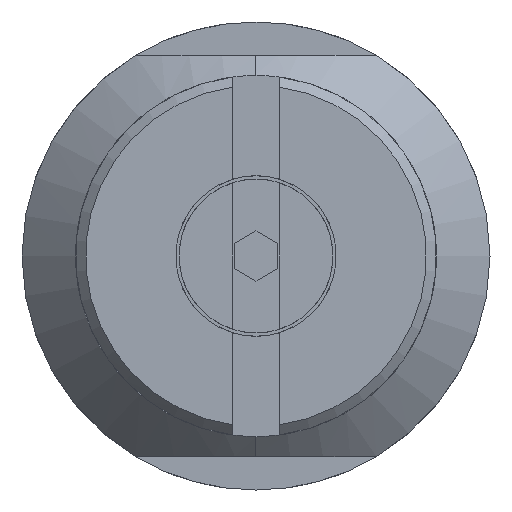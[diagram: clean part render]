
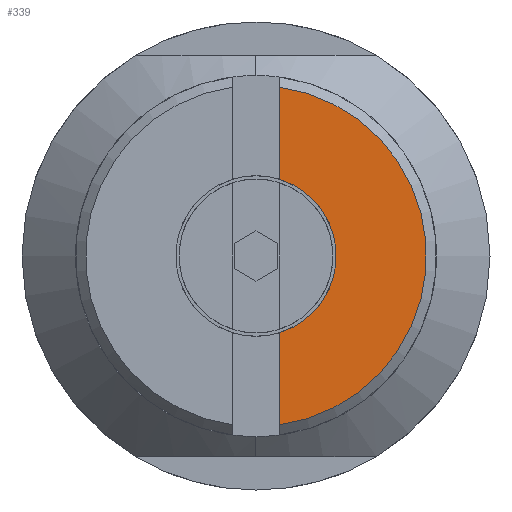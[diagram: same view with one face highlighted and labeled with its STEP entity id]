
A CAD part, left-side view. The second image highlights one B-rep face of the part: STEP entity #339.
In plain terms, the highlighted planar face has unit normal (-1, 0, 0).
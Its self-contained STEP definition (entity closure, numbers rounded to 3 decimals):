
#76 = AXIS2_PLACEMENT_3D ( 'NONE', #1511, #1400, #1390 ) ;
#117 = LINE ( 'NONE', #1098, #1087 ) ;
#201 = ORIENTED_EDGE ( 'NONE', *, *, #1521, .T. ) ;
#275 = VERTEX_POINT ( 'NONE', #1401 ) ;
#339 = ADVANCED_FACE ( 'NONE', ( #1090 ), #417, .T. ) ;
#417 = PLANE ( 'NONE',  #441 ) ;
#441 = AXIS2_PLACEMENT_3D ( 'NONE', #543, #1152, #1063 ) ;
#496 = VECTOR ( 'NONE', #918, 1000. ) ;
#543 = CARTESIAN_POINT ( 'NONE',  ( -5.1, 0., 0. ) ) ;
#640 = CARTESIAN_POINT ( 'NONE',  ( -5.1, -0.7, -2.296 ) ) ;
#664 = VERTEX_POINT ( 'NONE', #1455 ) ;
#693 = CARTESIAN_POINT ( 'NONE',  ( -5.1, -0.7, 0. ) ) ;
#808 = ORIENTED_EDGE ( 'NONE', *, *, #1190, .F. ) ;
#823 = LINE ( 'NONE', #693, #496 ) ;
#842 = CIRCLE ( 'NONE', #1233, 5.1 ) ;
#896 = ORIENTED_EDGE ( 'NONE', *, *, #1162, .F. ) ;
#918 = DIRECTION ( 'NONE',  ( 0., 0., 1. ) ) ;
#919 = VERTEX_POINT ( 'NONE', #640 ) ;
#961 = EDGE_CURVE ( 'NONE', #664, #919, #117, .T. ) ;
#1044 = EDGE_LOOP ( 'NONE', ( #896, #1159, #201, #808 ) ) ;
#1063 = DIRECTION ( 'NONE',  ( 0., 0., 1. ) ) ;
#1087 = VECTOR ( 'NONE', #1140, 1000. ) ;
#1090 = FACE_OUTER_BOUND ( 'NONE', #1044, .T. ) ;
#1098 = CARTESIAN_POINT ( 'NONE',  ( -5.1, -0.7, 0. ) ) ;
#1140 = DIRECTION ( 'NONE',  ( 0., 0., 1. ) ) ;
#1152 = DIRECTION ( 'NONE',  ( -1., 0., 0. ) ) ;
#1159 = ORIENTED_EDGE ( 'NONE', *, *, #961, .F. ) ;
#1162 = EDGE_CURVE ( 'NONE', #919, #275, #1543, .T. ) ;
#1190 = EDGE_CURVE ( 'NONE', #275, #1476, #823, .T. ) ;
#1233 = AXIS2_PLACEMENT_3D ( 'NONE', #1341, #1322, #1327 ) ;
#1322 = DIRECTION ( 'NONE',  ( -1., 0., 0. ) ) ;
#1327 = DIRECTION ( 'NONE',  ( 0., 0., 1. ) ) ;
#1341 = CARTESIAN_POINT ( 'NONE',  ( -5.1, 0., 0. ) ) ;
#1356 = CARTESIAN_POINT ( 'NONE',  ( -5.1, -0.7, 5.052 ) ) ;
#1390 = DIRECTION ( 'NONE',  ( 0., 0., 1. ) ) ;
#1400 = DIRECTION ( 'NONE',  ( -1., 0., 0. ) ) ;
#1401 = CARTESIAN_POINT ( 'NONE',  ( -5.1, -0.7, 2.296 ) ) ;
#1455 = CARTESIAN_POINT ( 'NONE',  ( -5.1, -0.7, -5.052 ) ) ;
#1476 = VERTEX_POINT ( 'NONE', #1356 ) ;
#1511 = CARTESIAN_POINT ( 'NONE',  ( -5.1, 0., 0. ) ) ;
#1521 = EDGE_CURVE ( 'NONE', #664, #1476, #842, .T. ) ;
#1543 = CIRCLE ( 'NONE', #76, 2.4 ) ;
